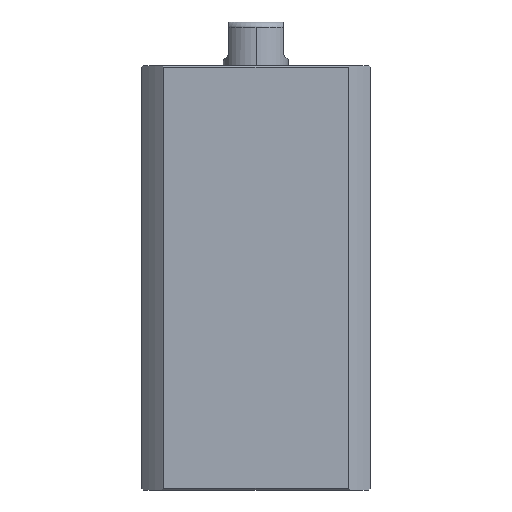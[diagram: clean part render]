
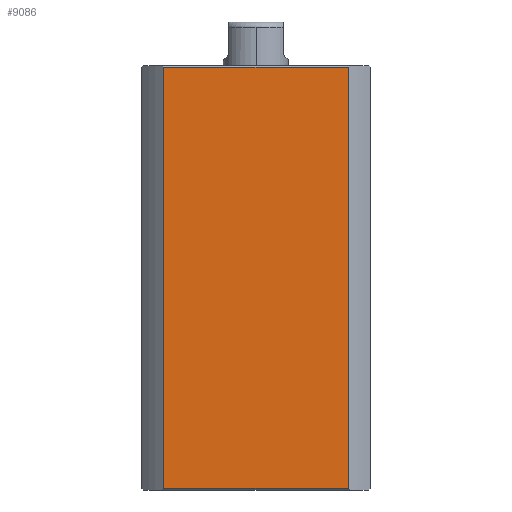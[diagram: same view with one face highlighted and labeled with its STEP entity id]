
A CAD part, left-side view. The second image highlights one B-rep face of the part: STEP entity #9086.
In plain terms, the highlighted planar face has unit normal (-1, 0, 0).
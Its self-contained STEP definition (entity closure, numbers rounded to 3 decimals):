
#810 = DIRECTION ( 'NONE',  ( 0., 0., 1. ) ) ;
#1156 = LINE ( 'NONE', #3815, #5870 ) ;
#1489 = EDGE_CURVE ( 'NONE', #3160, #2854, #11160, .T. ) ;
#1563 = CARTESIAN_POINT ( 'NONE',  ( -21., -16.971, 77.7 ) ) ;
#1656 = LINE ( 'NONE', #2263, #11078 ) ;
#1873 = ORIENTED_EDGE ( 'NONE', *, *, #6348, .T. ) ;
#2263 = CARTESIAN_POINT ( 'NONE',  ( -21., -16.971, -222. ) ) ;
#2548 = CARTESIAN_POINT ( 'NONE',  ( -21., 21., 77.7 ) ) ;
#2854 = VERTEX_POINT ( 'NONE', #8216 ) ;
#3160 = VERTEX_POINT ( 'NONE', #7820 ) ;
#3231 = LINE ( 'NONE', #2548, #7926 ) ;
#3815 = CARTESIAN_POINT ( 'NONE',  ( -21., 21., 0.3 ) ) ;
#3883 = ORIENTED_EDGE ( 'NONE', *, *, #1489, .F. ) ;
#4196 = AXIS2_PLACEMENT_3D ( 'NONE', #4399, #10978, #5346 ) ;
#4399 = CARTESIAN_POINT ( 'NONE',  ( -21., 21., 78. ) ) ;
#4718 = DIRECTION ( 'NONE',  ( 0., -1., 0. ) ) ;
#5020 = EDGE_CURVE ( 'NONE', #7857, #2854, #3231, .T. ) ;
#5346 = DIRECTION ( 'NONE',  ( 0., 1., 0. ) ) ;
#5870 = VECTOR ( 'NONE', #4718, 1000. ) ;
#6348 = EDGE_CURVE ( 'NONE', #3160, #7432, #1156, .T. ) ;
#6437 = CARTESIAN_POINT ( 'NONE',  ( -21., 16.971, -222. ) ) ;
#6944 = DIRECTION ( 'NONE',  ( 0., 0., -1. ) ) ;
#7423 = ORIENTED_EDGE ( 'NONE', *, *, #5020, .T. ) ;
#7432 = VERTEX_POINT ( 'NONE', #9133 ) ;
#7477 = FACE_OUTER_BOUND ( 'NONE', #10099, .T. ) ;
#7820 = CARTESIAN_POINT ( 'NONE',  ( -21., 16.971, 0.3 ) ) ;
#7857 = VERTEX_POINT ( 'NONE', #1563 ) ;
#7926 = VECTOR ( 'NONE', #8160, 1000. ) ;
#8160 = DIRECTION ( 'NONE',  ( 0., 1., 0. ) ) ;
#8216 = CARTESIAN_POINT ( 'NONE',  ( -21., 16.971, 77.7 ) ) ;
#8944 = VECTOR ( 'NONE', #810, 1000. ) ;
#9086 = ADVANCED_FACE ( 'NONE', ( #7477 ), #11351, .F. ) ;
#9133 = CARTESIAN_POINT ( 'NONE',  ( -21., -16.971, 0.3 ) ) ;
#10099 = EDGE_LOOP ( 'NONE', ( #3883, #1873, #12135, #7423 ) ) ;
#10978 = DIRECTION ( 'NONE',  ( 1., 0., 0. ) ) ;
#11078 = VECTOR ( 'NONE', #6944, 1000. ) ;
#11160 = LINE ( 'NONE', #6437, #8944 ) ;
#11351 = PLANE ( 'NONE',  #4196 ) ;
#11793 = EDGE_CURVE ( 'NONE', #7857, #7432, #1656, .T. ) ;
#12135 = ORIENTED_EDGE ( 'NONE', *, *, #11793, .F. ) ;
